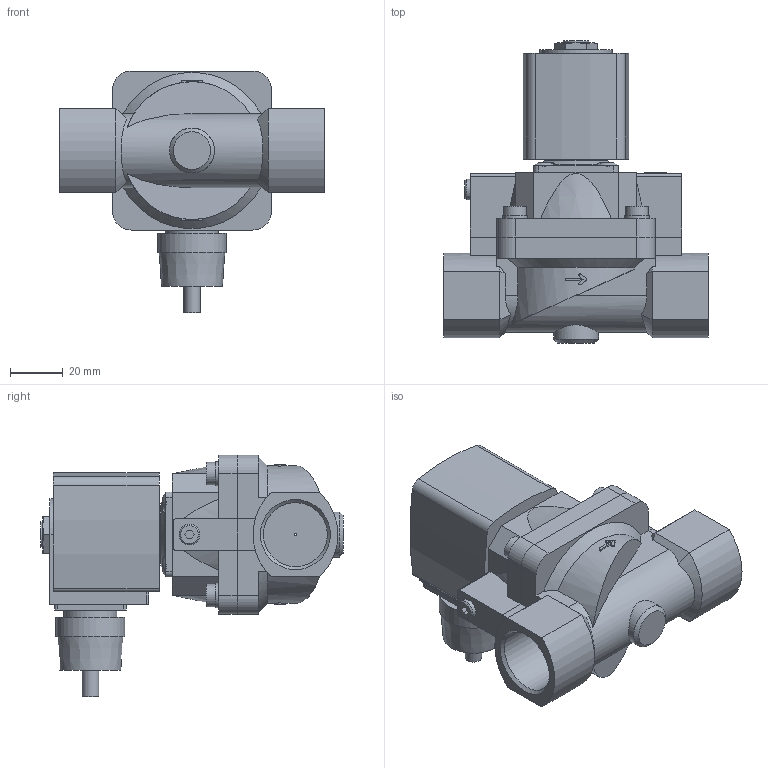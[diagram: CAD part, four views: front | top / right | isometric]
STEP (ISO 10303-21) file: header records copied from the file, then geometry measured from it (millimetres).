
FILE_DESCRIPTION(/* description */ ('STEP AP214'),/* implementation_level */ '2;1');
FILE_NAME(/* name */ '5404-383011-Servo-assisted_2_2_way_piston_valve',/* time_stamp */ '2024-02-29T13:17:31+01:00',/* author */ ('License CC BY-ND 4.0'),/* organization */ ('CADENAS'),/* preprocessor_version */ 'ST-DEVELOPER v19.3',/* originating_system */ 'PARTsolutions',/* authorisation */ ' ');
FILE_SCHEMA (('AUTOMOTIVE_DESIGN {1 0 10303 214 3 1 1}'));
Length unit declared in the file: millimetre
Products named in the file (4): 5404-383011-Servo-assisted 2/2 way piston valve; 5282g-8520MS000-2/2-Wege-Magnetventil_Gehaeuse; 5282d-20MSAU3J-2/2-Wege-Magnetventil_Deckel; AC10ex-6ATEXKabelPlan-Coil
Assembly tree (3 placements, depth 2):
  5404-383011-Servo-assisted 2/2 way piston valve
    5282g-8520MS000-2/2-Wege-Magnetventil_Gehaeuse
    5282d-20MSAU3J-2/2-Wege-Magnetventil_Deckel
    AC10ex-6ATEXKabelPlan-Coil
Bounding box: 100 x 114.1 x 91.3 mm (x, y, z)
Volume: 264709.3 mm3; surface area: 49931.1 mm2
Topology: 3 solids, 3 shells, 270 faces, 671 edges, 442 vertices
Faces by surface type: plane 150, cylinder 89, cone 26, torus 5
Full cylindrical faces by diameter (mm): 1 x1, 4 x4, 6.2 x1, 7.5 x4, 7.6 x4, 7.8 x1, 8.5 x4, 9.2 x4, 9.74 x1, 17 x1, 20 x1, 21 x1, 24.117 x2, 26 x1
Entity records: 8359 total; most frequent: CARTESIAN_POINT 1592, DIRECTION 1328, ORIENTED_EDGE 1238, EDGE_CURVE 619, AXIS2_PLACEMENT_3D 494, VERTEX_POINT 431, EDGE_LOOP 348, FACE_BOUND 348
